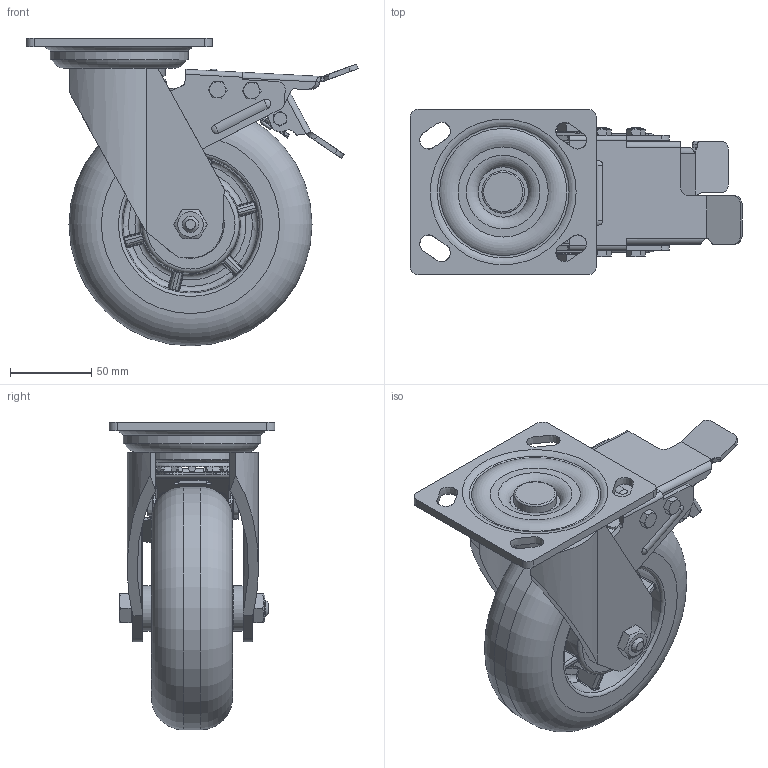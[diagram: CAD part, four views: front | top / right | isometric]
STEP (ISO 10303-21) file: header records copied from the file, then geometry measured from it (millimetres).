
FILE_DESCRIPTION(/* description */ (''),/* implementation_level */ '2;1');
FILE_NAME(/* name */ '35C58_6_F.stp',/* time_stamp */ '2022-10-17T13:05:54+08:00',/* author */ (''),/* organization */ (''),/* preprocessor_version */ 'ST-DEVELOPER v14',/* originating_system */ 'SIEMENS PLM Software NX 8.0',/* authorisation */ '');
FILE_SCHEMA (('AUTOMOTIVE_DESIGN { 1 0 10303 214 3 1 1 1 }'));
Length unit declared in the file: millimetre
Products named in the file (1): 35C58_6_F
Bounding box: 204.86 x 102 x 190 mm (x, y, z)
Volume: 949010.9 mm3; surface area: 217453.8 mm2
Topology: 1 solids, 1 shells, 1510 faces, 4161 edges, 2633 vertices
Faces by surface type: plane 641, cylinder 429, bspline 206, torus 109, cone 68, sphere 31, extrusion 26
Full cylindrical faces by diameter (mm): 4 x2, 4.2 x2, 5 x2, 5.2 x2, 5.997 x19, 6 x2, 6.2 x9, 7.78 x1, 9.78 x2, 10.104 x2, 12 x1, 12.3 x2, 16.2 x1, 16.3 x1, 17 x2, 20.5 x2, 22.276 x1, 24.188 x4, 26.256 x1, 28 x2, 32.812 x2, 39.85 x2, 40 x3, 57 x1, 59.213 x1, 73.673 x1, 85 x1, 150 x1
Entity records: 81143 total; most frequent: CARTESIAN_POINT 45933, ORIENTED_EDGE 7712, DIRECTION 6812, EDGE_CURVE 3856, AXIS2_PLACEMENT_3D 2778, VERTEX_POINT 2501, EDGE_LOOP 1807, ADVANCED_FACE 1492
